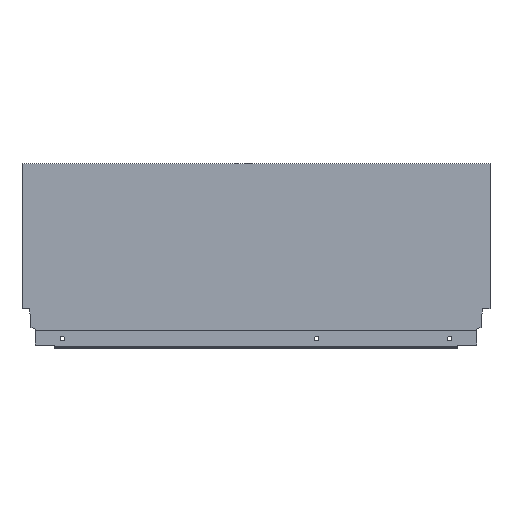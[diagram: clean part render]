
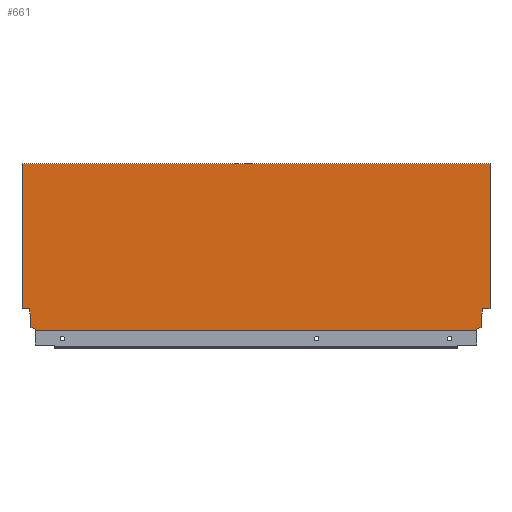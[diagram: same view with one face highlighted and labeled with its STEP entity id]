
A CAD part, top view. The second image highlights one B-rep face of the part: STEP entity #661.
In plain terms, the highlighted planar face has unit normal (0, 0, 1).
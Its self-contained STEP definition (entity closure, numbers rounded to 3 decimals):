
#186 = EDGE_CURVE ( 'NONE', #864, #843, #765, .T. ) ;
#188 = EDGE_CURVE ( 'NONE', #837, #858, #360, .T. ) ;
#189 = EDGE_CURVE ( 'NONE', #402, #864, #344, .T. ) ;
#190 = EDGE_CURVE ( 'NONE', #858, #861, #361, .T. ) ;
#191 = EDGE_CURVE ( 'NONE', #843, #868, #358, .T. ) ;
#192 = EDGE_CURVE ( 'NONE', #876, #427, #356, .T. ) ;
#193 = EDGE_CURVE ( 'NONE', #868, #823, #354, .T. ) ;
#194 = EDGE_CURVE ( 'NONE', #863, #871, #336, .T. ) ;
#195 = EDGE_CURVE ( 'NONE', #823, #837, #334, .T. ) ;
#197 = EDGE_CURVE ( 'NONE', #402, #871, #341, .T. ) ;
#198 = EDGE_CURVE ( 'NONE', #875, #870, #769, .T. ) ;
#199 = EDGE_CURVE ( 'NONE', #870, #876, #346, .T. ) ;
#201 = EDGE_CURVE ( 'NONE', #427, #863, #764, .T. ) ;
#203 = EDGE_CURVE ( 'NONE', #875, #861, #350, .T. ) ;
#227 = AXIS2_PLACEMENT_3D ( 'NONE', #954, #945, #944 ) ;
#286 = CARTESIAN_POINT ( 'NONE',  ( -463., 164.7, 7.5 ) ) ;
#298 = CARTESIAN_POINT ( 'NONE',  ( -454.1, 10.765, 7.5 ) ) ;
#324 = FACE_OUTER_BOUND ( 'NONE', #1162, .T. ) ;
#334 = LINE ( 'NONE', #567, #339 ) ;
#335 = VECTOR ( 'NONE', #568, 1000. ) ;
#336 = LINE ( 'NONE', #571, #335 ) ;
#339 = VECTOR ( 'NONE', #566, 1000. ) ;
#340 = VECTOR ( 'NONE', #572, 1000. ) ;
#341 = LINE ( 'NONE', #557, #342 ) ;
#342 = VECTOR ( 'NONE', #556, 1000. ) ;
#343 = VECTOR ( 'NONE', #740, 1000. ) ;
#344 = LINE ( 'NONE', #564, #362 ) ;
#345 = VECTOR ( 'NONE', #784, 1000. ) ;
#346 = LINE ( 'NONE', #786, #345 ) ;
#347 = VECTOR ( 'NONE', #569, 1000. ) ;
#350 = LINE ( 'NONE', #790, #353 ) ;
#353 = VECTOR ( 'NONE', #789, 1000. ) ;
#354 = LINE ( 'NONE', #573, #340 ) ;
#355 = VECTOR ( 'NONE', #574, 1000. ) ;
#356 = LINE ( 'NONE', #575, #355 ) ;
#357 = VECTOR ( 'NONE', #577, 1000. ) ;
#358 = LINE ( 'NONE', #579, #357 ) ;
#359 = VECTOR ( 'NONE', #580, 1000. ) ;
#360 = LINE ( 'NONE', #570, #347 ) ;
#361 = LINE ( 'NONE', #582, #359 ) ;
#362 = VECTOR ( 'NONE', #563, 1000. ) ;
#402 = VERTEX_POINT ( 'NONE', #286 ) ;
#427 = VERTEX_POINT ( 'NONE', #298 ) ;
#462 = CARTESIAN_POINT ( 'NONE',  ( -13.004, 0., 7.5 ) ) ;
#466 = CARTESIAN_POINT ( 'NONE',  ( -7.06, 21.2, 7.5 ) ) ;
#467 = CARTESIAN_POINT ( 'NONE',  ( -13.004, 1.146, 7.5 ) ) ;
#479 = CARTESIAN_POINT ( 'NONE',  ( -463., 21.2, 7.5 ) ) ;
#480 = CARTESIAN_POINT ( 'NONE',  ( -449.996, 1.146, 7.5 ) ) ;
#484 = CARTESIAN_POINT ( 'NONE',  ( -454.1, 2.64, 7.5 ) ) ;
#485 = CARTESIAN_POINT ( 'NONE',  ( -449.996, 0., 7.5 ) ) ;
#489 = CARTESIAN_POINT ( 'NONE',  ( 0., 164.7, 7.5 ) ) ;
#491 = CARTESIAN_POINT ( 'NONE',  ( -455.94, 21.2, 7.5 ) ) ;
#530 = CARTESIAN_POINT ( 'NONE',  ( -8.9, 10.765, 7.5 ) ) ;
#547 = CARTESIAN_POINT ( 'NONE',  ( 0., 21.2, 7.5 ) ) ;
#554 = CARTESIAN_POINT ( 'NONE',  ( -8.9, 2.64, 7.5 ) ) ;
#556 = DIRECTION ( 'NONE',  ( 0., -1., 0. ) ) ;
#557 = CARTESIAN_POINT ( 'NONE',  ( -463., 0., 7.5 ) ) ;
#563 = DIRECTION ( 'NONE',  ( 1., 0., 0. ) ) ;
#564 = CARTESIAN_POINT ( 'NONE',  ( -463., 164.7, 7.5 ) ) ;
#566 = DIRECTION ( 'NONE',  ( 0., -1., 0. ) ) ;
#567 = CARTESIAN_POINT ( 'NONE',  ( -8.9, 10.765, 7.5 ) ) ;
#568 = DIRECTION ( 'NONE',  ( -1., 0., 0. ) ) ;
#569 = DIRECTION ( 'NONE',  ( -0.94, -0.342, 0. ) ) ;
#570 = CARTESIAN_POINT ( 'NONE',  ( -8.9, 2.64, 7.5 ) ) ;
#571 = CARTESIAN_POINT ( 'NONE',  ( -468., 21.2, 7.5 ) ) ;
#572 = DIRECTION ( 'NONE',  ( -0.174, -0.985, 0. ) ) ;
#573 = CARTESIAN_POINT ( 'NONE',  ( -7.06, 21.2, 7.5 ) ) ;
#574 = DIRECTION ( 'NONE',  ( 0., 1., 0. ) ) ;
#575 = CARTESIAN_POINT ( 'NONE',  ( -454.1, 10.765, 7.5 ) ) ;
#577 = DIRECTION ( 'NONE',  ( -1., 0., 0. ) ) ;
#579 = CARTESIAN_POINT ( 'NONE',  ( 0., 21.2, 7.5 ) ) ;
#580 = DIRECTION ( 'NONE',  ( 0., -1., 0. ) ) ;
#581 = DIRECTION ( 'NONE',  ( 0., -1., 0. ) ) ;
#582 = CARTESIAN_POINT ( 'NONE',  ( -13.004, 1.146, 7.5 ) ) ;
#661 = ADVANCED_FACE ( 'NONE', ( #324 ), #947, .T. ) ;
#735 = CARTESIAN_POINT ( 'NONE',  ( 0., 0., 7.5 ) ) ;
#737 = CARTESIAN_POINT ( 'NONE',  ( -449.996, 1.146, 7.5 ) ) ;
#740 = DIRECTION ( 'NONE',  ( 0., 1., 0. ) ) ;
#764 = LINE ( 'NONE', #794, #770 ) ;
#765 = LINE ( 'NONE', #735, #766 ) ;
#766 = VECTOR ( 'NONE', #581, 1000. ) ;
#769 = LINE ( 'NONE', #737, #343 ) ;
#770 = VECTOR ( 'NONE', #793, 1000. ) ;
#784 = DIRECTION ( 'NONE',  ( -0.94, 0.342, 0. ) ) ;
#786 = CARTESIAN_POINT ( 'NONE',  ( -454.1, 2.64, 7.5 ) ) ;
#789 = DIRECTION ( 'NONE',  ( 1., 0., 0. ) ) ;
#790 = CARTESIAN_POINT ( 'NONE',  ( -463., 0., 7.5 ) ) ;
#793 = DIRECTION ( 'NONE',  ( -0.174, 0.985, 0. ) ) ;
#794 = CARTESIAN_POINT ( 'NONE',  ( -455.94, 21.2, 7.5 ) ) ;
#823 = VERTEX_POINT ( 'NONE', #530 ) ;
#837 = VERTEX_POINT ( 'NONE', #554 ) ;
#843 = VERTEX_POINT ( 'NONE', #547 ) ;
#858 = VERTEX_POINT ( 'NONE', #467 ) ;
#861 = VERTEX_POINT ( 'NONE', #462 ) ;
#863 = VERTEX_POINT ( 'NONE', #491 ) ;
#864 = VERTEX_POINT ( 'NONE', #489 ) ;
#868 = VERTEX_POINT ( 'NONE', #466 ) ;
#870 = VERTEX_POINT ( 'NONE', #480 ) ;
#871 = VERTEX_POINT ( 'NONE', #479 ) ;
#875 = VERTEX_POINT ( 'NONE', #485 ) ;
#876 = VERTEX_POINT ( 'NONE', #484 ) ;
#944 = DIRECTION ( 'NONE',  ( 1., 0., 0. ) ) ;
#945 = DIRECTION ( 'NONE',  ( 0., 0., 1. ) ) ;
#947 = PLANE ( 'NONE',  #227 ) ;
#954 = CARTESIAN_POINT ( 'NONE',  ( -463., 0., 7.5 ) ) ;
#1162 = EDGE_LOOP ( 'NONE', ( #1394, #1395, #1390, #1391, #1392, #1384, #1385, #1386, #1381, #1382, #1383, #1365, #1362, #1363 ) ) ;
#1362 = ORIENTED_EDGE ( 'NONE', *, *, #186, .F. ) ;
#1363 = ORIENTED_EDGE ( 'NONE', *, *, #189, .F. ) ;
#1365 = ORIENTED_EDGE ( 'NONE', *, *, #191, .F. ) ;
#1381 = ORIENTED_EDGE ( 'NONE', *, *, #188, .F. ) ;
#1382 = ORIENTED_EDGE ( 'NONE', *, *, #195, .F. ) ;
#1383 = ORIENTED_EDGE ( 'NONE', *, *, #193, .F. ) ;
#1384 = ORIENTED_EDGE ( 'NONE', *, *, #198, .F. ) ;
#1385 = ORIENTED_EDGE ( 'NONE', *, *, #203, .T. ) ;
#1386 = ORIENTED_EDGE ( 'NONE', *, *, #190, .F. ) ;
#1390 = ORIENTED_EDGE ( 'NONE', *, *, #201, .F. ) ;
#1391 = ORIENTED_EDGE ( 'NONE', *, *, #192, .F. ) ;
#1392 = ORIENTED_EDGE ( 'NONE', *, *, #199, .F. ) ;
#1394 = ORIENTED_EDGE ( 'NONE', *, *, #197, .T. ) ;
#1395 = ORIENTED_EDGE ( 'NONE', *, *, #194, .F. ) ;
